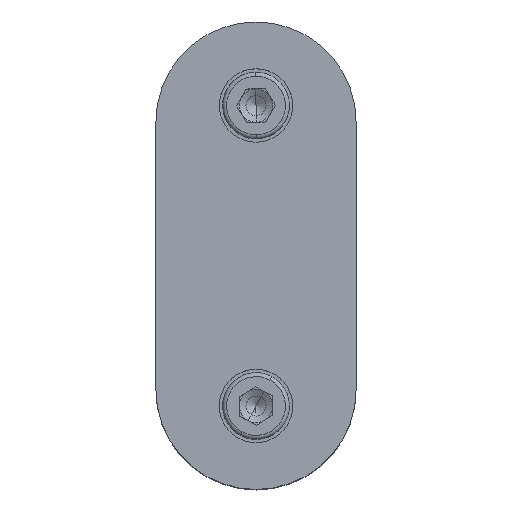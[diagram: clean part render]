
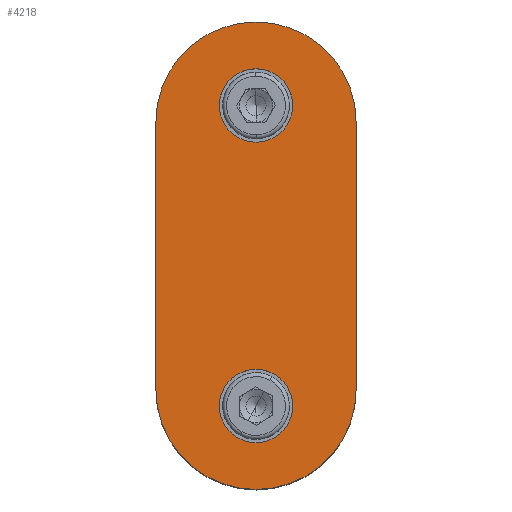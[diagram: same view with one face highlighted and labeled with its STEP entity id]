
A CAD part, top view. The second image highlights one B-rep face of the part: STEP entity #4218.
In plain terms, the highlighted planar face has unit normal (0, 0, 1).
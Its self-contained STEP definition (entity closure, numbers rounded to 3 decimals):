
#5 = EDGE_CURVE ( 'NONE', #6910, #5555, #594, .T. ) ;
#30 = DIRECTION ( 'NONE',  ( 0., 1., 0. ) ) ;
#113 = DIRECTION ( 'NONE',  ( 0., 0., -1. ) ) ;
#235 = AXIS2_PLACEMENT_3D ( 'NONE', #3671, #2938, #553 ) ;
#362 = DIRECTION ( 'NONE',  ( 0., -1., 0. ) ) ;
#527 = CARTESIAN_POINT ( 'NONE',  ( 23.95, -7.918, -5.762 ) ) ;
#553 = DIRECTION ( 'NONE',  ( 1., 0., 0. ) ) ;
#594 = CIRCLE ( 'NONE', #5364, 5.5 ) ;
#688 = CARTESIAN_POINT ( 'NONE',  ( 38.95, -10.418, -5.762 ) ) ;
#770 = FACE_BOUND ( 'NONE', #2772, .T. ) ;
#842 = VERTEX_POINT ( 'NONE', #7045 ) ;
#972 = AXIS2_PLACEMENT_3D ( 'NONE', #688, #113, #30 ) ;
#1022 = DIRECTION ( 'NONE',  ( 0., 1., 0. ) ) ;
#1078 = EDGE_CURVE ( 'NONE', #4304, #1356, #7030, .T. ) ;
#1256 = CARTESIAN_POINT ( 'NONE',  ( 53.95, -7.918, -5.762 ) ) ;
#1334 = CIRCLE ( 'NONE', #235, 15. ) ;
#1356 = VERTEX_POINT ( 'NONE', #6019 ) ;
#1387 = AXIS2_PLACEMENT_3D ( 'NONE', #3614, #7560, #362 ) ;
#1514 = ORIENTED_EDGE ( 'NONE', *, *, #1078, .F. ) ;
#1615 = AXIS2_PLACEMENT_3D ( 'NONE', #3096, #2759, #6915 ) ;
#1956 = CARTESIAN_POINT ( 'NONE',  ( 38.95, 32.082, -5.762 ) ) ;
#1963 = CARTESIAN_POINT ( 'NONE',  ( 38.95, -10.418, -5.762 ) ) ;
#1976 = ORIENTED_EDGE ( 'NONE', *, *, #6871, .T. ) ;
#2077 = DIRECTION ( 'NONE',  ( 0., 0., -1. ) ) ;
#2143 = PLANE ( 'NONE',  #1615 ) ;
#2474 = DIRECTION ( 'NONE',  ( 0., 0., -1. ) ) ;
#2493 = EDGE_CURVE ( 'NONE', #5555, #6910, #6904, .T. ) ;
#2564 = EDGE_LOOP ( 'NONE', ( #7233, #6469 ) ) ;
#2618 = VERTEX_POINT ( 'NONE', #6682 ) ;
#2758 = EDGE_CURVE ( 'NONE', #6040, #842, #4258, .T. ) ;
#2759 = DIRECTION ( 'NONE',  ( 0., 0., 1. ) ) ;
#2772 = EDGE_LOOP ( 'NONE', ( #1976, #7665 ) ) ;
#2817 = CIRCLE ( 'NONE', #5100, 5.5 ) ;
#2938 = DIRECTION ( 'NONE',  ( 0., 0., -1. ) ) ;
#3096 = CARTESIAN_POINT ( 'NONE',  ( 38.95, 12.082, -5.762 ) ) ;
#3181 = CIRCLE ( 'NONE', #6965, 5.5 ) ;
#3302 = CARTESIAN_POINT ( 'NONE',  ( 38.95, 29.082, -5.762 ) ) ;
#3484 = VERTEX_POINT ( 'NONE', #6841 ) ;
#3614 = CARTESIAN_POINT ( 'NONE',  ( 38.95, -7.918, -5.762 ) ) ;
#3671 = CARTESIAN_POINT ( 'NONE',  ( 38.95, 32.082, -5.762 ) ) ;
#4144 = DIRECTION ( 'NONE',  ( 0., -1., 0. ) ) ;
#4218 = ADVANCED_FACE ( 'NONE', ( #770, #4495, #5677 ), #2143, .T. ) ;
#4258 = LINE ( 'NONE', #1256, #5929 ) ;
#4304 = VERTEX_POINT ( 'NONE', #527 ) ;
#4341 = DIRECTION ( 'NONE',  ( 0., 0., -1. ) ) ;
#4359 = EDGE_CURVE ( 'NONE', #3484, #6040, #1334, .T. ) ;
#4494 = CARTESIAN_POINT ( 'NONE',  ( 23.95, 32.082, -5.762 ) ) ;
#4495 = FACE_BOUND ( 'NONE', #2564, .T. ) ;
#4546 = CARTESIAN_POINT ( 'NONE',  ( 38.95, -22.918, -5.762 ) ) ;
#4606 = VERTEX_POINT ( 'NONE', #4546 ) ;
#4894 = ORIENTED_EDGE ( 'NONE', *, *, #6236, .F. ) ;
#4932 = EDGE_CURVE ( 'NONE', #5968, #2618, #2817, .T. ) ;
#5057 = DIRECTION ( 'NONE',  ( 0., 1., 0. ) ) ;
#5100 = AXIS2_PLACEMENT_3D ( 'NONE', #7073, #6439, #7655 ) ;
#5126 = CARTESIAN_POINT ( 'NONE',  ( 38.95, -4.918, -5.762 ) ) ;
#5278 = CARTESIAN_POINT ( 'NONE',  ( 38.95, -7.918, -5.762 ) ) ;
#5364 = AXIS2_PLACEMENT_3D ( 'NONE', #1963, #2077, #5057 ) ;
#5429 = AXIS2_PLACEMENT_3D ( 'NONE', #1956, #2474, #6043 ) ;
#5525 = ORIENTED_EDGE ( 'NONE', *, *, #4359, .F. ) ;
#5555 = VERTEX_POINT ( 'NONE', #7575 ) ;
#5579 = CIRCLE ( 'NONE', #7466, 15. ) ;
#5639 = ORIENTED_EDGE ( 'NONE', *, *, #7259, .F. ) ;
#5677 = FACE_OUTER_BOUND ( 'NONE', #7460, .T. ) ;
#5929 = VECTOR ( 'NONE', #4144, 1000. ) ;
#5968 = VERTEX_POINT ( 'NONE', #3302 ) ;
#6019 = CARTESIAN_POINT ( 'NONE',  ( 23.95, 32.082, -5.762 ) ) ;
#6037 = CARTESIAN_POINT ( 'NONE',  ( 38.95, 34.582, -5.762 ) ) ;
#6040 = VERTEX_POINT ( 'NONE', #7026 ) ;
#6043 = DIRECTION ( 'NONE',  ( 0., 1., 0. ) ) ;
#6068 = CIRCLE ( 'NONE', #1387, 15. ) ;
#6236 = EDGE_CURVE ( 'NONE', #4606, #4304, #5579, .T. ) ;
#6439 = DIRECTION ( 'NONE',  ( 0., 0., -1. ) ) ;
#6469 = ORIENTED_EDGE ( 'NONE', *, *, #2493, .T. ) ;
#6682 = CARTESIAN_POINT ( 'NONE',  ( 38.95, 40.082, -5.762 ) ) ;
#6768 = ORIENTED_EDGE ( 'NONE', *, *, #7054, .F. ) ;
#6789 = ORIENTED_EDGE ( 'NONE', *, *, #2758, .F. ) ;
#6841 = CARTESIAN_POINT ( 'NONE',  ( 38.95, 47.082, -5.762 ) ) ;
#6871 = EDGE_CURVE ( 'NONE', #2618, #5968, #3181, .T. ) ;
#6904 = CIRCLE ( 'NONE', #972, 5.5 ) ;
#6910 = VERTEX_POINT ( 'NONE', #5126 ) ;
#6915 = DIRECTION ( 'NONE',  ( 1., 0., 0. ) ) ;
#6965 = AXIS2_PLACEMENT_3D ( 'NONE', #6037, #4341, #7380 ) ;
#6978 = DIRECTION ( 'NONE',  ( 0., 0., -1. ) ) ;
#7026 = CARTESIAN_POINT ( 'NONE',  ( 53.95, 32.082, -5.762 ) ) ;
#7030 = LINE ( 'NONE', #4494, #7371 ) ;
#7045 = CARTESIAN_POINT ( 'NONE',  ( 53.95, -7.918, -5.762 ) ) ;
#7054 = EDGE_CURVE ( 'NONE', #842, #4606, #6068, .T. ) ;
#7073 = CARTESIAN_POINT ( 'NONE',  ( 38.95, 34.582, -5.762 ) ) ;
#7233 = ORIENTED_EDGE ( 'NONE', *, *, #5, .T. ) ;
#7259 = EDGE_CURVE ( 'NONE', #1356, #3484, #7570, .T. ) ;
#7371 = VECTOR ( 'NONE', #1022, 1000. ) ;
#7380 = DIRECTION ( 'NONE',  ( 0., 1., 0. ) ) ;
#7460 = EDGE_LOOP ( 'NONE', ( #4894, #6768, #6789, #5525, #5639, #1514 ) ) ;
#7466 = AXIS2_PLACEMENT_3D ( 'NONE', #5278, #6978, #7681 ) ;
#7560 = DIRECTION ( 'NONE',  ( 0., 0., -1. ) ) ;
#7570 = CIRCLE ( 'NONE', #5429, 15. ) ;
#7575 = CARTESIAN_POINT ( 'NONE',  ( 38.95, -15.918, -5.762 ) ) ;
#7655 = DIRECTION ( 'NONE',  ( 0., 1., 0. ) ) ;
#7665 = ORIENTED_EDGE ( 'NONE', *, *, #4932, .T. ) ;
#7681 = DIRECTION ( 'NONE',  ( -1., 0., 0. ) ) ;
